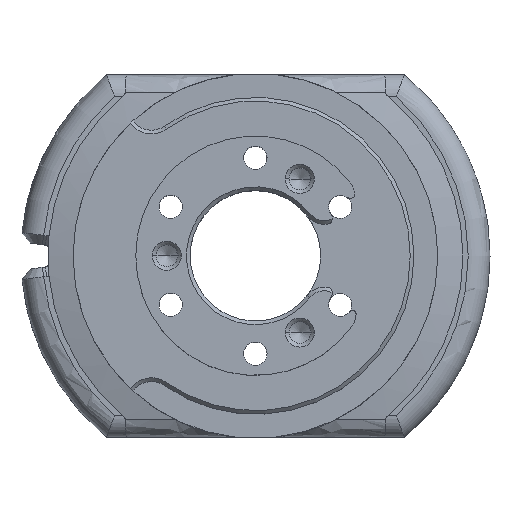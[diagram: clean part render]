
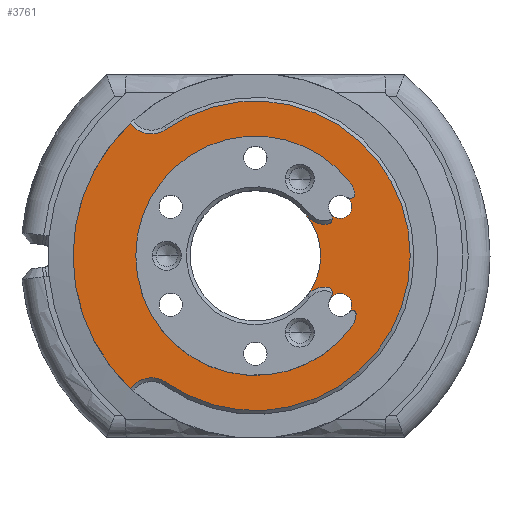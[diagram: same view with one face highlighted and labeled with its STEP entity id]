
A CAD part, top view. The second image highlights one B-rep face of the part: STEP entity #3761.
In plain terms, the highlighted planar face has unit normal (0, 0, 1).
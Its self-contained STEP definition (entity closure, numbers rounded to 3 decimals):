
#955=CARTESIAN_POINT('',(213.,12.35,-41.5));
#956=DIRECTION('',(0.,0.,-1.));
#957=DIRECTION('',(1.,0.,0.));
#958=AXIS2_PLACEMENT_3D('',#955,#956,#957);
#960=CARTESIAN_POINT('',(198.661,-8.129,-41.5));
#961=DIRECTION('',(0.,0.,1.));
#962=DIRECTION('',(0.574,0.819,0.));
#963=AXIS2_PLACEMENT_3D('',#960,#961,#962);
#965=CARTESIAN_POINT('',(213.,12.35,-41.5));
#966=DIRECTION('',(0.,0.,-1.));
#967=DIRECTION('',(-0.686,-0.727,0.));
#968=AXIS2_PLACEMENT_3D('',#965,#966,#967);
#970=CARTESIAN_POINT('',(213.,12.35,-41.5));
#971=DIRECTION('',(0.,0.,-1.));
#972=DIRECTION('',(-1.,0.,0.));
#973=AXIS2_PLACEMENT_3D('',#970,#971,#972);
#975=CARTESIAN_POINT('',(198.661,32.829,-41.5));
#976=DIRECTION('',(0.,0.,1.));
#977=DIRECTION('',(-0.801,-0.599,0.));
#978=AXIS2_PLACEMENT_3D('',#975,#976,#977);
#980=CARTESIAN_POINT('',(213.,12.35,-41.5));
#981=DIRECTION('',(0.,0.,-1.));
#982=DIRECTION('',(-0.574,0.819,0.));
#983=AXIS2_PLACEMENT_3D('',#980,#981,#982);
#985=CARTESIAN_POINT('',(226.687,3.934,-41.5));
#986=DIRECTION('',(0.,0.,1.));
#987=DIRECTION('',(-0.623,0.782,0.));
#988=AXIS2_PLACEMENT_3D('',#985,#986,#987);
#990=CARTESIAN_POINT('',(224.691,5.6,-41.5));
#991=DIRECTION('',(0.,0.,1.));
#992=DIRECTION('',(0.768,-0.641,0.));
#993=AXIS2_PLACEMENT_3D('',#990,#991,#992);
#995=CARTESIAN_POINT('',(224.691,5.6,-41.5));
#996=DIRECTION('',(0.,0.,1.));
#997=DIRECTION('',(1.,0.,0.));
#998=AXIS2_PLACEMENT_3D('',#995,#996,#997);
#1000=CARTESIAN_POINT('',(222.602,7.148,-41.5));
#1001=DIRECTION('',(0.,0.,1.));
#1002=DIRECTION('',(0.803,-0.595,0.));
#1003=AXIS2_PLACEMENT_3D('',#1000,#1001,#1002);
#1005=CARTESIAN_POINT('',(222.602,7.148,-41.5));
#1006=DIRECTION('',(0.,0.,1.));
#1007=DIRECTION('',(1.,0.,0.));
#1008=AXIS2_PLACEMENT_3D('',#1005,#1006,#1007);
#1010=CARTESIAN_POINT('',(222.498,5.017,-41.5));
#1011=DIRECTION('',(0.,0.,1.));
#1012=DIRECTION('',(0.244,0.97,0.));
#1013=AXIS2_PLACEMENT_3D('',#1010,#1011,#1012);
#1015=CARTESIAN_POINT('',(213.,12.35,-41.5));
#1016=DIRECTION('',(0.,0.,1.));
#1017=DIRECTION('',(0.792,-0.611,0.));
#1018=AXIS2_PLACEMENT_3D('',#1015,#1016,#1017);
#1020=CARTESIAN_POINT('',(213.,12.35,-41.5));
#1021=DIRECTION('',(0.,0.,1.));
#1022=DIRECTION('',(1.,0.,0.));
#1023=AXIS2_PLACEMENT_3D('',#1020,#1021,#1022);
#1025=CARTESIAN_POINT('',(222.498,19.684,-41.5));
#1026=DIRECTION('',(0.,0.,1.));
#1027=DIRECTION('',(-0.792,-0.611,0.));
#1028=AXIS2_PLACEMENT_3D('',#1025,#1026,#1027);
#1030=CARTESIAN_POINT('',(222.602,17.552,-41.5));
#1031=DIRECTION('',(0.,0.,1.));
#1032=DIRECTION('',(0.628,-0.778,0.));
#1033=AXIS2_PLACEMENT_3D('',#1030,#1031,#1032);
#1035=CARTESIAN_POINT('',(222.602,17.552,-41.5));
#1036=DIRECTION('',(0.,0.,1.));
#1037=DIRECTION('',(1.,0.,0.));
#1038=AXIS2_PLACEMENT_3D('',#1035,#1036,#1037);
#1040=CARTESIAN_POINT('',(224.691,19.1,-41.5));
#1041=DIRECTION('',(0.,0.,1.));
#1042=DIRECTION('',(-0.803,-0.595,0.));
#1043=AXIS2_PLACEMENT_3D('',#1040,#1041,#1042);
#1045=CARTESIAN_POINT('',(224.691,19.1,-41.5));
#1046=DIRECTION('',(0.,0.,1.));
#1047=DIRECTION('',(1.,0.,0.));
#1048=AXIS2_PLACEMENT_3D('',#1045,#1046,#1047);
#1050=CARTESIAN_POINT('',(226.098,21.287,-41.5));
#1051=DIRECTION('',(0.,0.,1.));
#1052=DIRECTION('',(-0.541,-0.841,0.));
#1053=AXIS2_PLACEMENT_3D('',#1050,#1051,#1052);
#1055=CARTESIAN_POINT('',(226.208,20.799,-41.5));
#1056=DIRECTION('',(0.,0.,1.));
#1057=DIRECTION('',(0.22,-0.975,0.));
#1058=AXIS2_PLACEMENT_3D('',#1055,#1056,#1057);
#1060=CARTESIAN_POINT('',(226.208,20.799,-41.5));
#1061=DIRECTION('',(0.,0.,1.));
#1062=DIRECTION('',(1.,0.,0.));
#1063=AXIS2_PLACEMENT_3D('',#1060,#1061,#1062);
#1065=CARTESIAN_POINT('',(223.72,20.556,-41.5));
#1066=DIRECTION('',(0.,0.,1.));
#1067=DIRECTION('',(0.995,0.097,0.));
#1068=AXIS2_PLACEMENT_3D('',#1065,#1066,#1067);
#1070=CARTESIAN_POINT('',(213.,12.35,-41.5));
#1071=DIRECTION('',(0.,0.,1.));
#1072=DIRECTION('',(0.794,0.608,0.));
#1073=AXIS2_PLACEMENT_3D('',#1070,#1071,#1072);
#1075=CARTESIAN_POINT('',(213.,12.35,-41.5));
#1076=DIRECTION('',(0.,0.,1.));
#1077=DIRECTION('',(-1.,0.,0.));
#1078=AXIS2_PLACEMENT_3D('',#1075,#1076,#1077);
#1080=CARTESIAN_POINT('',(223.876,4.353,-41.5));
#1081=DIRECTION('',(0.,0.,1.));
#1082=DIRECTION('',(0.806,-0.592,0.));
#1083=AXIS2_PLACEMENT_3D('',#1080,#1081,#1082);
#1085=CARTESIAN_POINT('',(226.376,4.325,-41.5));
#1086=DIRECTION('',(0.,0.,1.));
#1087=DIRECTION('',(1.,-0.006,0.));
#1088=AXIS2_PLACEMENT_3D('',#1085,#1086,#1087);
#2386=CARTESIAN_POINT('',(225.557,20.446,-41.5));
#2387=VERTEX_POINT('',#2386);
#2388=CARTESIAN_POINT('',(226.291,19.1,-41.5));
#2389=VERTEX_POINT('',#2388);
#2390=CARTESIAN_POINT('',(226.318,20.311,-41.5));
#2391=VERTEX_POINT('',#2390);
#2392=CARTESIAN_POINT('',(234.35,12.35,-41.5));
#2393=CARTESIAN_POINT('',(200.754,-5.139,-41.5));
#2394=VERTEX_POINT('',#2392);
#2395=VERTEX_POINT('',#2393);
#2396=CARTESIAN_POINT('',(195.739,-5.941,-41.5));
#2397=VERTEX_POINT('',#2396);
#2398=CARTESIAN_POINT('',(187.85,12.35,-41.5));
#2399=CARTESIAN_POINT('',(195.739,30.641,-41.5));
#2400=VERTEX_POINT('',#2398);
#2401=VERTEX_POINT('',#2399);
#2402=CARTESIAN_POINT('',(200.754,29.839,-41.5));
#2403=VERTEX_POINT('',#2402);
#2404=CARTESIAN_POINT('',(226.065,4.717,-41.5));
#2405=CARTESIAN_POINT('',(225.92,4.575,-41.5));
#2406=VERTEX_POINT('',#2404);
#2407=VERTEX_POINT('',#2405);
#2408=CARTESIAN_POINT('',(226.291,5.6,-41.5));
#2409=VERTEX_POINT('',#2408);
#2410=CARTESIAN_POINT('',(223.406,6.553,-41.5));
#2411=VERTEX_POINT('',#2410);
#2412=CARTESIAN_POINT('',(223.602,7.148,-41.5));
#2413=VERTEX_POINT('',#2412);
#2414=CARTESIAN_POINT('',(223.231,7.926,-41.5));
#2415=VERTEX_POINT('',#2414);
#2416=CARTESIAN_POINT('',(220.124,6.85,-41.5));
#2417=VERTEX_POINT('',#2416);
#2418=CARTESIAN_POINT('',(222.,12.35,-41.5));
#2419=VERTEX_POINT('',#2418);
#2420=CARTESIAN_POINT('',(220.124,17.85,-41.5));
#2421=VERTEX_POINT('',#2420);
#2422=CARTESIAN_POINT('',(223.231,16.774,-41.5));
#2423=VERTEX_POINT('',#2422);
#2424=CARTESIAN_POINT('',(223.602,17.552,-41.5));
#2425=VERTEX_POINT('',#2424);
#2426=CARTESIAN_POINT('',(223.406,18.148,-41.5));
#2427=VERTEX_POINT('',#2426);
#2428=CARTESIAN_POINT('',(226.708,20.799,-41.5));
#2429=VERTEX_POINT('',#2428);
#2430=CARTESIAN_POINT('',(226.706,20.848,-41.5));
#2431=VERTEX_POINT('',#2430);
#2432=CARTESIAN_POINT('',(226.102,22.379,-41.5));
#2433=VERTEX_POINT('',#2432);
#2434=CARTESIAN_POINT('',(196.5,12.35,-41.5));
#2435=CARTESIAN_POINT('',(226.293,2.576,-41.5));
#2436=VERTEX_POINT('',#2434);
#2437=VERTEX_POINT('',#2435);
#2438=CARTESIAN_POINT('',(226.876,4.322,-41.5));
#2439=VERTEX_POINT('',#2438);
#3704=CARTESIAN_POINT('',(213.,12.35,-41.5));
#3705=DIRECTION('',(0.,0.,-1.));
#3706=DIRECTION('',(1.,0.,0.));
#3707=AXIS2_PLACEMENT_3D('',#3704,#3705,#3706);
#3708=PLANE('',#3707);
#3709=ORIENTED_EDGE('',*,*,#3681,.T.);
#3710=ORIENTED_EDGE('',*,*,#3697,.T.);
#3711=ORIENTED_EDGE('',*,*,#3094,.T.);
#3712=ORIENTED_EDGE('',*,*,#3092,.T.);
#3713=ORIENTED_EDGE('',*,*,#3667,.T.);
#3714=ORIENTED_EDGE('',*,*,#3683,.T.);
#3715=EDGE_LOOP('',(#3709,#3710,#3711,#3712,#3713,#3714));
#3716=FACE_OUTER_BOUND('',#3715,.F.);
#3718=ORIENTED_EDGE('',*,*,#3717,.T.);
#3720=ORIENTED_EDGE('',*,*,#3719,.T.);
#3722=ORIENTED_EDGE('',*,*,#3721,.T.);
#3724=ORIENTED_EDGE('',*,*,#3723,.T.);
#3726=ORIENTED_EDGE('',*,*,#3725,.T.);
#3728=ORIENTED_EDGE('',*,*,#3727,.T.);
#3730=ORIENTED_EDGE('',*,*,#3729,.T.);
#3732=ORIENTED_EDGE('',*,*,#3731,.T.);
#3734=ORIENTED_EDGE('',*,*,#3733,.T.);
#3736=ORIENTED_EDGE('',*,*,#3735,.T.);
#3738=ORIENTED_EDGE('',*,*,#3737,.T.);
#3740=ORIENTED_EDGE('',*,*,#3739,.T.);
#3742=ORIENTED_EDGE('',*,*,#3741,.T.);
#3744=ORIENTED_EDGE('',*,*,#3743,.T.);
#3746=ORIENTED_EDGE('',*,*,#3745,.T.);
#3748=ORIENTED_EDGE('',*,*,#3747,.T.);
#3750=ORIENTED_EDGE('',*,*,#3749,.T.);
#3752=ORIENTED_EDGE('',*,*,#3751,.T.);
#3754=ORIENTED_EDGE('',*,*,#3753,.T.);
#3756=ORIENTED_EDGE('',*,*,#3755,.T.);
#3758=ORIENTED_EDGE('',*,*,#3757,.T.);
#3759=EDGE_LOOP('',(#3718,#3720,#3722,#3724,#3726,#3728,#3730,#3732,#3734,#3736,
#3738,#3740,#3742,#3744,#3746,#3748,#3750,#3752,#3754,#3756,#3758));
#3760=FACE_BOUND('',#3759,.F.);
#3761=ADVANCED_FACE('',(#3716,#3760),#3708,.F.);
#959=CIRCLE('',#958,21.35);
#964=CIRCLE('',#963,3.65);
#969=CIRCLE('',#968,25.15);
#974=CIRCLE('',#973,25.15);
#979=CIRCLE('',#978,3.65);
#984=CIRCLE('',#983,21.35);
#989=CIRCLE('',#988,1.);
#994=CIRCLE('',#993,1.6);
#999=CIRCLE('',#998,1.6);
#1004=CIRCLE('',#1003,1.);
#1009=CIRCLE('',#1008,1.);
#1014=CIRCLE('',#1013,3.);
#1019=CIRCLE('',#1018,9.);
#1024=CIRCLE('',#1023,9.);
#1029=CIRCLE('',#1028,3.);
#1034=CIRCLE('',#1033,1.);
#1039=CIRCLE('',#1038,1.);
#1044=CIRCLE('',#1043,1.6);
#1049=CIRCLE('',#1048,1.6);
#1054=CIRCLE('',#1053,1.);
#1059=CIRCLE('',#1058,0.5);
#1064=CIRCLE('',#1063,0.5);
#1069=CIRCLE('',#1068,3.);
#1074=CIRCLE('',#1073,16.5);
#1079=CIRCLE('',#1078,16.5);
#1084=CIRCLE('',#1083,3.);
#1089=CIRCLE('',#1088,0.5);
#3092=EDGE_CURVE('',#2400,#2401,#974,.T.);
#3094=EDGE_CURVE('',#2397,#2400,#969,.T.);
#3667=EDGE_CURVE('',#2401,#2403,#979,.T.);
#3681=EDGE_CURVE('',#2394,#2395,#959,.T.);
#3683=EDGE_CURVE('',#2403,#2394,#984,.T.);
#3697=EDGE_CURVE('',#2395,#2397,#964,.T.);
#3717=EDGE_CURVE('',#2406,#2407,#989,.T.);
#3719=EDGE_CURVE('',#2407,#2409,#994,.T.);
#3721=EDGE_CURVE('',#2409,#2411,#999,.T.);
#3723=EDGE_CURVE('',#2411,#2413,#1004,.T.);
#3725=EDGE_CURVE('',#2413,#2415,#1009,.T.);
#3727=EDGE_CURVE('',#2415,#2417,#1014,.T.);
#3729=EDGE_CURVE('',#2417,#2419,#1019,.T.);
#3731=EDGE_CURVE('',#2419,#2421,#1024,.T.);
#3733=EDGE_CURVE('',#2421,#2423,#1029,.T.);
#3735=EDGE_CURVE('',#2423,#2425,#1034,.T.);
#3737=EDGE_CURVE('',#2425,#2427,#1039,.T.);
#3739=EDGE_CURVE('',#2427,#2389,#1044,.T.);
#3741=EDGE_CURVE('',#2389,#2387,#1049,.T.);
#3743=EDGE_CURVE('',#2387,#2391,#1054,.T.);
#3745=EDGE_CURVE('',#2391,#2429,#1059,.T.);
#3747=EDGE_CURVE('',#2429,#2431,#1064,.T.);
#3749=EDGE_CURVE('',#2431,#2433,#1069,.T.);
#3751=EDGE_CURVE('',#2433,#2436,#1074,.T.);
#3753=EDGE_CURVE('',#2436,#2437,#1079,.T.);
#3755=EDGE_CURVE('',#2437,#2439,#1084,.T.);
#3757=EDGE_CURVE('',#2439,#2406,#1089,.T.);
